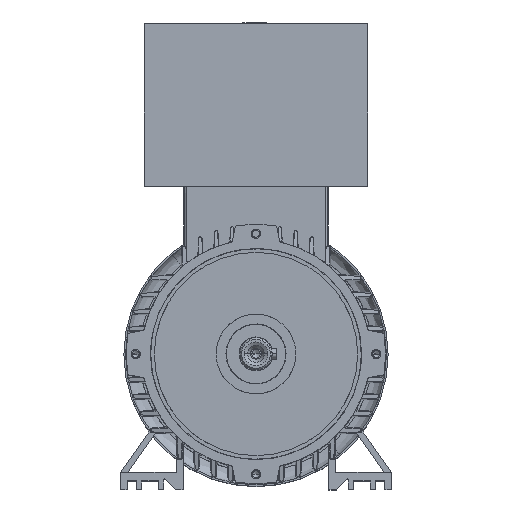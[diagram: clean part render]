
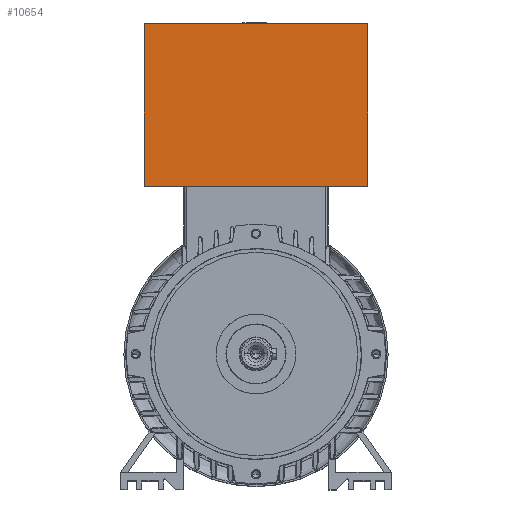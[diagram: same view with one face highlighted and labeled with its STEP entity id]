
A CAD part, top view. The second image highlights one B-rep face of the part: STEP entity #10654.
In plain terms, the highlighted planar face has unit normal (0, 0, 1).
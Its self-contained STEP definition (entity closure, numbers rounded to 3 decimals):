
#1269 = CARTESIAN_POINT ( 'NONE',  ( -66., -91.919, 66. ) ) ;
#1312 = AXIS2_PLACEMENT_3D ( 'NONE', #4090, #11314, #38322 ) ;
#3686 = CARTESIAN_POINT ( 'NONE',  ( -66., 195., 66. ) ) ;
#4090 = CARTESIAN_POINT ( 'NONE',  ( 66., -91.919, 66. ) ) ;
#4228 = EDGE_LOOP ( 'NONE', ( #29055, #24984, #35850, #34519 ) ) ;
#4465 = CARTESIAN_POINT ( 'NONE',  ( 66., 99., 66. ) ) ;
#6881 = DIRECTION ( 'NONE',  ( 1., 0., 0. ) ) ;
#7142 = CARTESIAN_POINT ( 'NONE',  ( -66., 99., 66. ) ) ;
#7519 = CARTESIAN_POINT ( 'NONE',  ( 66., 99., 66. ) ) ;
#9370 = FACE_OUTER_BOUND ( 'NONE', #4228, .T. ) ;
#10654 = ADVANCED_FACE ( 'NONE', ( #9370 ), #19525, .T. ) ;
#11206 = VERTEX_POINT ( 'NONE', #3686 ) ;
#11314 = DIRECTION ( 'NONE',  ( 0., 0., 1. ) ) ;
#11648 = VERTEX_POINT ( 'NONE', #7142 ) ;
#15022 = EDGE_CURVE ( 'NONE', #17315, #49594, #16329, .T. ) ;
#16329 = LINE ( 'NONE', #43206, #27727 ) ;
#17315 = VERTEX_POINT ( 'NONE', #7519 ) ;
#19525 = PLANE ( 'NONE',  #1312 ) ;
#21303 = EDGE_CURVE ( 'NONE', #17315, #11648, #26864, .T. ) ;
#22567 = VECTOR ( 'NONE', #40027, 1000. ) ;
#24984 = ORIENTED_EDGE ( 'NONE', *, *, #29837, .F. ) ;
#25687 = CARTESIAN_POINT ( 'NONE',  ( -66., 195., 66. ) ) ;
#26864 = LINE ( 'NONE', #4465, #45520 ) ;
#27727 = VECTOR ( 'NONE', #35451, 1000. ) ;
#29055 = ORIENTED_EDGE ( 'NONE', *, *, #15022, .T. ) ;
#29279 = EDGE_CURVE ( 'NONE', #11648, #11206, #38158, .T. ) ;
#29837 = EDGE_CURVE ( 'NONE', #11206, #49594, #43564, .T. ) ;
#34303 = CARTESIAN_POINT ( 'NONE',  ( 66., 195., 66. ) ) ;
#34519 = ORIENTED_EDGE ( 'NONE', *, *, #21303, .F. ) ;
#35124 = VECTOR ( 'NONE', #6881, 1000. ) ;
#35451 = DIRECTION ( 'NONE',  ( 0., 1., 0. ) ) ;
#35850 = ORIENTED_EDGE ( 'NONE', *, *, #29279, .F. ) ;
#38158 = LINE ( 'NONE', #1269, #22567 ) ;
#38322 = DIRECTION ( 'NONE',  ( 1., 0., 0. ) ) ;
#38545 = DIRECTION ( 'NONE',  ( -1., 0., 0. ) ) ;
#40027 = DIRECTION ( 'NONE',  ( 0., 1., 0. ) ) ;
#43206 = CARTESIAN_POINT ( 'NONE',  ( 66., -91.919, 66. ) ) ;
#43564 = LINE ( 'NONE', #25687, #35124 ) ;
#45520 = VECTOR ( 'NONE', #38545, 1000. ) ;
#49594 = VERTEX_POINT ( 'NONE', #34303 ) ;
